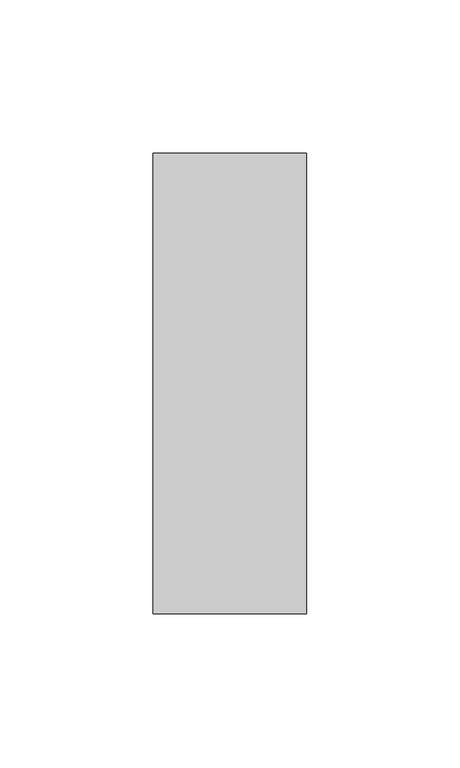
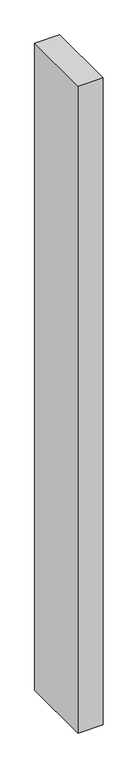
"""IFC4 building model written with IfcOpenShell, lengths in millimetres: member geometry, Прямоугольный импост : 50 x 150 мм."""

from ifc_helpers import new_model, si_unit, frame, origin, place, context, project, spatial, polyline, outline, extrude, source, transform, mapped, element, save


def member_024bce23(model_context):
    return source(origin(), model_context, "Body", "SweptSolid", [
        extrude(outline(polyline([(25.0, 75.0), (25.0, -75.0), (-25.0, -75.0), (-25.0, 75.0), (25.0, 75.0)])), frame((0.0, 0.0, -1368.2988325), z_axis=(0.0, 0.0, 1.0), x_axis=(1.0, 0.0, 0.0)), (0.0, 0.0, 1.0), 1368.2988325),
    ])


if __name__ == "__main__":
    model = new_model("IFC4")
    model_context = context("Model", 3, world=origin())
    ifc_project = project(units=[si_unit("LENGTHUNIT", "METRE", prefix="MILLI")], contexts=[model_context])
    site = spatial("IfcSite", under=ifc_project)
    building = spatial("IfcBuilding", under=site)
    placement = place(None, origin())
    member_shape = member_024bce23(model_context)
    element("IfcMember", 1, ObjectType="Прямоугольный импост : 50 x 150 мм", at=placement, inside=building, context=model_context, shape_type="MappedRepresentation", body=[
        mapped(member_shape, transform((0.0, 0.0, 0.0), x_axis=(1.0, 0.0, 0.0), y_axis=(0.0, 1.0, 0.0), z_axis=(0.0, 0.0, 1.0))),
    ])
    save(model, "model.ifc")
